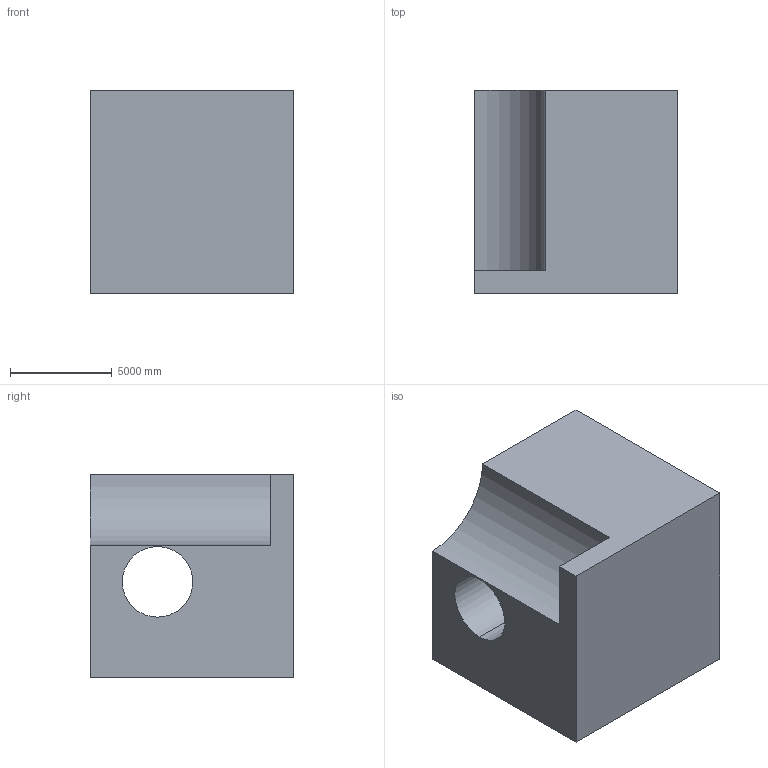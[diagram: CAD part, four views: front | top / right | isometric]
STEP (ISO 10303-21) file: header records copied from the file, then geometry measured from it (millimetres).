
FILE_DESCRIPTION (( 'STEP AP203' ), '1' );
FILE_NAME ('13.STEP', '2022-07-28T13:24:21', ( 'user' ), ( '' ), 'SwSTEP 2.0', 'SolidWorks 2021', '' );
FILE_SCHEMA (( 'CONFIG_CONTROL_DESIGN' ));
Length unit declared in the file: centimetre
Products named in the file (1): 13
Bounding box: 10000 x 10000 x 10000 mm (x, y, z)
Volume: 820483992835.6 mm3; surface area: 676788330.1 mm2
Topology: 1 solids, 1 shells, 10 faces, 24 edges, 16 vertices
Faces by surface type: plane 7, cylinder 3
Entity records: 375 total; most frequent: DIRECTION 52, CARTESIAN_POINT 51, ORIENTED_EDGE 48, EDGE_CURVE 24, LINE 18, VECTOR 18, AXIS2_PLACEMENT_3D 17, VERTEX_POINT 16
